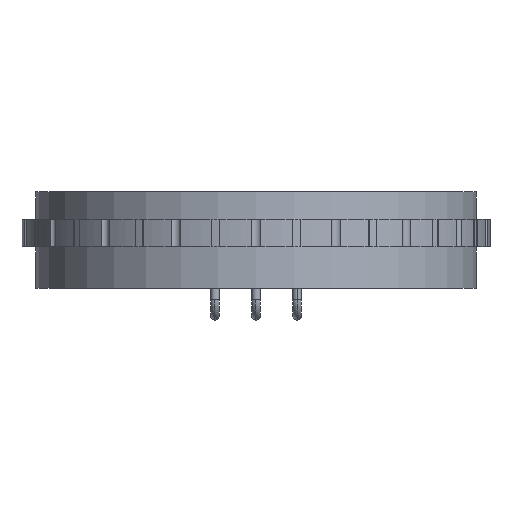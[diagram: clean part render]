
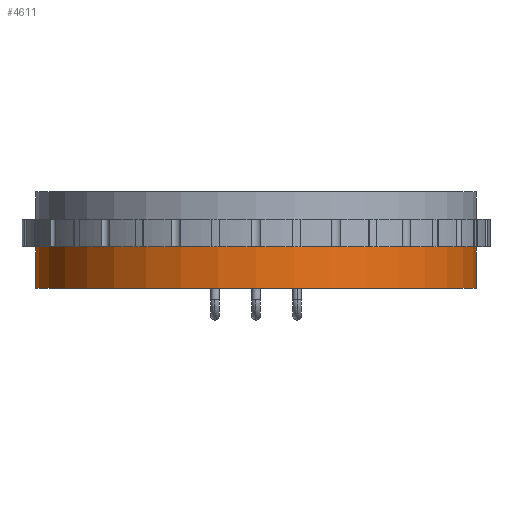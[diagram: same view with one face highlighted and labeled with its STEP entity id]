
A CAD part, front view. The second image highlights one B-rep face of the part: STEP entity #4611.
In plain terms, the highlighted cylindrical face has radius 40 mm (diameter 80 mm), a partial arc.
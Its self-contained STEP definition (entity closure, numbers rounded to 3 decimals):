
#2453 = DIRECTION ( 'NONE',  ( 0., 0., -1. ) ) ;
#4473 = ORIENTED_EDGE ( 'NONE', *, *, #25816, .F. ) ;
#4611 = ADVANCED_FACE ( 'NONE', ( #19535 ), #35804, .T. ) ;
#4875 = LINE ( 'NONE', #13389, #42918 ) ;
#5481 = DIRECTION ( 'NONE',  ( 0., 0., -1. ) ) ;
#8065 = CARTESIAN_POINT ( 'NONE',  ( 0., 0., 47.89 ) ) ;
#8344 = DIRECTION ( 'NONE',  ( -1., 0., 0. ) ) ;
#9327 = VERTEX_POINT ( 'NONE', #11140 ) ;
#10476 = EDGE_CURVE ( 'NONE', #51454, #9327, #50593, .T. ) ;
#10695 = CARTESIAN_POINT ( 'NONE',  ( 0., 0., 37.89 ) ) ;
#11042 = CARTESIAN_POINT ( 'NONE',  ( 40., 0., 30.39 ) ) ;
#11140 = CARTESIAN_POINT ( 'NONE',  ( -40., 0., 30.39 ) ) ;
#11521 = VECTOR ( 'NONE', #12376, 1000. ) ;
#12376 = DIRECTION ( 'NONE',  ( 0., 0., -1. ) ) ;
#13389 = CARTESIAN_POINT ( 'NONE',  ( 40., 0., 47.89 ) ) ;
#16687 = CARTESIAN_POINT ( 'NONE',  ( 0., 0., 30.39 ) ) ;
#19535 = FACE_OUTER_BOUND ( 'NONE', #28014, .T. ) ;
#20691 = DIRECTION ( 'NONE',  ( -1., 0., 0. ) ) ;
#23098 = CARTESIAN_POINT ( 'NONE',  ( -40., 0., 37.89 ) ) ;
#23225 = CARTESIAN_POINT ( 'NONE',  ( 40., 0., 37.89 ) ) ;
#25816 = EDGE_CURVE ( 'NONE', #27659, #51454, #4875, .T. ) ;
#27659 = VERTEX_POINT ( 'NONE', #23225 ) ;
#28014 = EDGE_LOOP ( 'NONE', ( #4473, #50827, #30340, #31019 ) ) ;
#28368 = LINE ( 'NONE', #52392, #11521 ) ;
#28863 = DIRECTION ( 'NONE',  ( 0., 0., -1. ) ) ;
#30340 = ORIENTED_EDGE ( 'NONE', *, *, #51661, .T. ) ;
#31019 = ORIENTED_EDGE ( 'NONE', *, *, #10476, .F. ) ;
#33424 = VERTEX_POINT ( 'NONE', #23098 ) ;
#34693 = AXIS2_PLACEMENT_3D ( 'NONE', #8065, #28863, #8344 ) ;
#35804 = CYLINDRICAL_SURFACE ( 'NONE', #34693, 40. ) ;
#37418 = DIRECTION ( 'NONE',  ( 0., 0., -1. ) ) ;
#42341 = CIRCLE ( 'NONE', #49168, 40. ) ;
#42918 = VECTOR ( 'NONE', #37418, 1000. ) ;
#43231 = DIRECTION ( 'NONE',  ( -1., 0., 0. ) ) ;
#47318 = EDGE_CURVE ( 'NONE', #27659, #33424, #42341, .T. ) ;
#49168 = AXIS2_PLACEMENT_3D ( 'NONE', #10695, #2453, #43231 ) ;
#50593 = CIRCLE ( 'NONE', #52305, 40. ) ;
#50827 = ORIENTED_EDGE ( 'NONE', *, *, #47318, .T. ) ;
#51454 = VERTEX_POINT ( 'NONE', #11042 ) ;
#51661 = EDGE_CURVE ( 'NONE', #33424, #9327, #28368, .T. ) ;
#52305 = AXIS2_PLACEMENT_3D ( 'NONE', #16687, #5481, #20691 ) ;
#52392 = CARTESIAN_POINT ( 'NONE',  ( -40., 0., 47.89 ) ) ;
